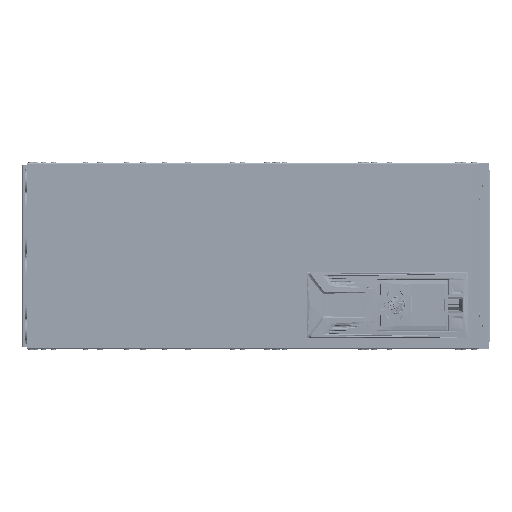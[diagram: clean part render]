
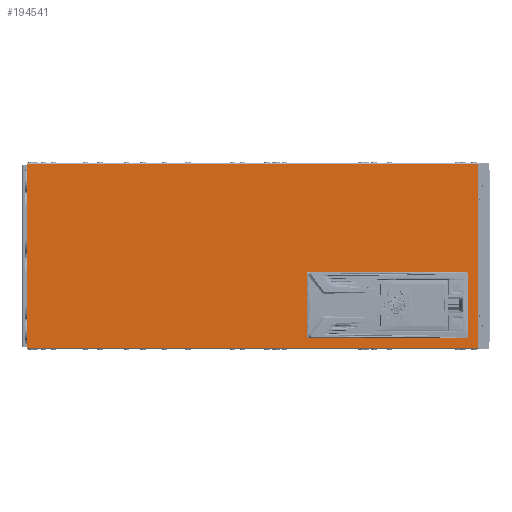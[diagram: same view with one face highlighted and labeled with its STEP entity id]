
A CAD part, left-side view. The second image highlights one B-rep face of the part: STEP entity #194541.
In plain terms, the highlighted planar face has unit normal (-1, 0, 0).
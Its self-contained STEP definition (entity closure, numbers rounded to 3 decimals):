
#193215=DIRECTION('',(0.,-1.,0.));
#193216=VECTOR('',#193215,1.2);
#193217=CARTESIAN_POINT('',(-205.8,353.5,131.2));
#193218=LINE('',#193217,#193216);
#193375=DIRECTION('',(0.,1.,0.));
#193376=VECTOR('',#193375,1.2);
#193377=CARTESIAN_POINT('',(-205.8,-291.5,-131.2));
#193378=LINE('',#193377,#193376);
#193522=DIRECTION('',(0.,0.,-1.));
#193523=VECTOR('',#193522,262.4);
#193524=CARTESIAN_POINT('',(-205.8,352.3,131.2));
#193525=LINE('',#193524,#193523);
#193526=DIRECTION('',(0.,0.,1.));
#193527=VECTOR('',#193526,0.1);
#193528=CARTESIAN_POINT('',(-205.8,353.5,131.2));
#193529=LINE('',#193528,#193527);
#193530=DIRECTION('',(0.,0.,-1.));
#193531=VECTOR('',#193530,0.1);
#193532=CARTESIAN_POINT('',(-205.8,-291.5,131.3));
#193533=LINE('',#193532,#193531);
#193534=DIRECTION('',(0.,1.,0.));
#193535=VECTOR('',#193534,1.2);
#193536=CARTESIAN_POINT('',(-205.8,-291.5,131.2));
#193537=LINE('',#193536,#193535);
#193538=DIRECTION('',(0.,0.,-1.));
#193539=VECTOR('',#193538,0.1);
#193540=CARTESIAN_POINT('',(-205.8,-291.5,-131.2));
#193541=LINE('',#193540,#193539);
#193542=DIRECTION('',(0.,0.,1.));
#193543=VECTOR('',#193542,0.1);
#193544=CARTESIAN_POINT('',(-205.8,353.5,-131.3));
#193545=LINE('',#193544,#193543);
#193546=DIRECTION('',(0.,-1.,0.));
#193547=VECTOR('',#193546,1.2);
#193548=CARTESIAN_POINT('',(-205.8,353.5,-131.2));
#193549=LINE('',#193548,#193547);
#193550=DIRECTION('',(0.,0.,1.));
#193551=VECTOR('',#193550,85.);
#193552=CARTESIAN_POINT('',(-205.8,-271.5,-112.5));
#193553=LINE('',#193552,#193551);
#193554=DIRECTION('',(0.,1.,0.));
#193555=VECTOR('',#193554,220.);
#193556=CARTESIAN_POINT('',(-205.8,-271.5,-27.5));
#193557=LINE('',#193556,#193555);
#193558=DIRECTION('',(0.,0.,-1.));
#193559=VECTOR('',#193558,85.);
#193560=CARTESIAN_POINT('',(-205.8,-51.5,-27.5));
#193561=LINE('',#193560,#193559);
#193562=DIRECTION('',(0.,-1.,0.));
#193563=VECTOR('',#193562,220.);
#193564=CARTESIAN_POINT('',(-205.8,-51.5,-112.5));
#193565=LINE('',#193564,#193563);
#193570=DIRECTION('',(0.,1.,0.));
#193571=VECTOR('',#193570,645.);
#193572=CARTESIAN_POINT('',(-205.8,-291.5,131.3));
#193573=LINE('',#193572,#193571);
#193578=DIRECTION('',(0.,0.,1.));
#193579=VECTOR('',#193578,262.4);
#193580=CARTESIAN_POINT('',(-205.8,-290.3,-131.2));
#193581=LINE('',#193580,#193579);
#193586=DIRECTION('',(0.,-1.,0.));
#193587=VECTOR('',#193586,645.);
#193588=CARTESIAN_POINT('',(-205.8,353.5,-131.3));
#193589=LINE('',#193588,#193587);
#193726=CARTESIAN_POINT('',(-205.8,352.3,131.2));
#193727=VERTEX_POINT('',#193726);
#193728=CARTESIAN_POINT('',(-205.8,353.5,131.2));
#193729=VERTEX_POINT('',#193728);
#193730=CARTESIAN_POINT('',(-205.8,353.5,131.3));
#193731=VERTEX_POINT('',#193730);
#193732=CARTESIAN_POINT('',(-205.8,353.5,-131.2));
#193733=VERTEX_POINT('',#193732);
#193734=CARTESIAN_POINT('',(-205.8,353.5,-131.3));
#193735=VERTEX_POINT('',#193734);
#193748=CARTESIAN_POINT('',(-205.8,-291.5,131.3));
#193749=VERTEX_POINT('',#193748);
#193750=CARTESIAN_POINT('',(-205.8,-291.5,-131.2));
#193751=VERTEX_POINT('',#193750);
#193752=CARTESIAN_POINT('',(-205.8,-291.5,-131.3));
#193753=VERTEX_POINT('',#193752);
#193754=CARTESIAN_POINT('',(-205.8,-291.5,131.2));
#193755=VERTEX_POINT('',#193754);
#193756=CARTESIAN_POINT('',(-205.8,-290.3,-131.2));
#193757=VERTEX_POINT('',#193756);
#193758=CARTESIAN_POINT('',(-205.8,352.3,-131.2));
#193759=VERTEX_POINT('',#193758);
#193760=CARTESIAN_POINT('',(-205.8,-290.3,131.2));
#193761=VERTEX_POINT('',#193760);
#193762=CARTESIAN_POINT('',(-205.8,-271.5,-112.5));
#193763=CARTESIAN_POINT('',(-205.8,-271.5,-27.5));
#193764=VERTEX_POINT('',#193762);
#193765=VERTEX_POINT('',#193763);
#193766=CARTESIAN_POINT('',(-205.8,-51.5,-27.5));
#193767=VERTEX_POINT('',#193766);
#193768=CARTESIAN_POINT('',(-205.8,-51.5,-112.5));
#193769=VERTEX_POINT('',#193768);
#194509=CARTESIAN_POINT('',(-205.8,-291.5,132.5));
#194510=DIRECTION('',(-1.,0.,0.));
#194511=DIRECTION('',(0.,0.,-1.));
#194512=AXIS2_PLACEMENT_3D('',#194509,#194510,#194511);
#194513=PLANE('',#194512);
#194514=ORIENTED_EDGE('',*,*,#194503,.F.);
#194515=ORIENTED_EDGE('',*,*,#194004,.F.);
#194516=ORIENTED_EDGE('',*,*,#194019,.T.);
#194518=ORIENTED_EDGE('',*,*,#194517,.F.);
#194519=ORIENTED_EDGE('',*,*,#194127,.T.);
#194520=ORIENTED_EDGE('',*,*,#194142,.T.);
#194522=ORIENTED_EDGE('',*,*,#194521,.F.);
#194523=ORIENTED_EDGE('',*,*,#194249,.F.);
#194524=ORIENTED_EDGE('',*,*,#194264,.T.);
#194526=ORIENTED_EDGE('',*,*,#194525,.F.);
#194527=ORIENTED_EDGE('',*,*,#194372,.T.);
#194528=ORIENTED_EDGE('',*,*,#194387,.T.);
#194529=EDGE_LOOP('',(#194514,#194515,#194516,#194518,#194519,#194520,#194522,
#194523,#194524,#194526,#194527,#194528));
#194530=FACE_OUTER_BOUND('',#194529,.F.);
#194532=ORIENTED_EDGE('',*,*,#194531,.T.);
#194534=ORIENTED_EDGE('',*,*,#194533,.T.);
#194536=ORIENTED_EDGE('',*,*,#194535,.T.);
#194538=ORIENTED_EDGE('',*,*,#194537,.T.);
#194539=EDGE_LOOP('',(#194532,#194534,#194536,#194538));
#194540=FACE_BOUND('',#194539,.F.);
#194004=EDGE_CURVE('',#193729,#193727,#193218,.T.);
#194019=EDGE_CURVE('',#193729,#193731,#193529,.T.);
#194127=EDGE_CURVE('',#193749,#193755,#193533,.T.);
#194142=EDGE_CURVE('',#193755,#193761,#193537,.T.);
#194249=EDGE_CURVE('',#193751,#193757,#193378,.T.);
#194264=EDGE_CURVE('',#193751,#193753,#193541,.T.);
#194372=EDGE_CURVE('',#193735,#193733,#193545,.T.);
#194387=EDGE_CURVE('',#193733,#193759,#193549,.T.);
#194503=EDGE_CURVE('',#193727,#193759,#193525,.T.);
#194517=EDGE_CURVE('',#193749,#193731,#193573,.T.);
#194521=EDGE_CURVE('',#193757,#193761,#193581,.T.);
#194525=EDGE_CURVE('',#193735,#193753,#193589,.T.);
#194531=EDGE_CURVE('',#193764,#193765,#193553,.T.);
#194533=EDGE_CURVE('',#193765,#193767,#193557,.T.);
#194535=EDGE_CURVE('',#193767,#193769,#193561,.T.);
#194537=EDGE_CURVE('',#193769,#193764,#193565,.T.);
#194541=ADVANCED_FACE('',(#194530,#194540),#194513,.T.);
